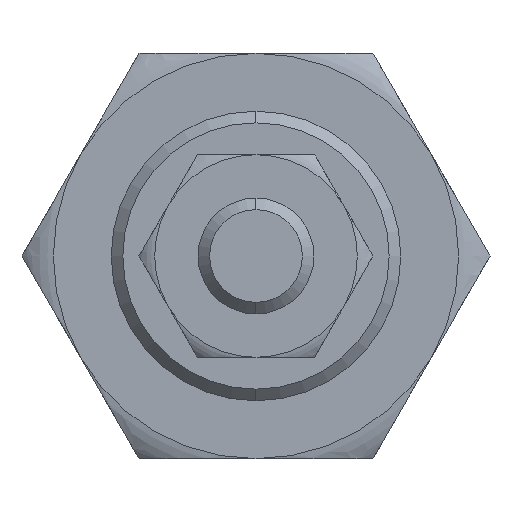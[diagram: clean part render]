
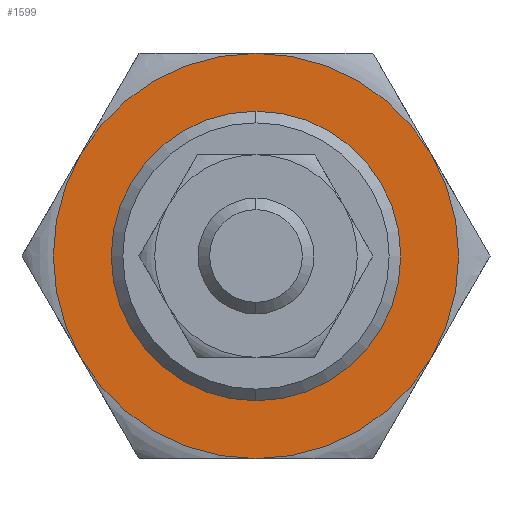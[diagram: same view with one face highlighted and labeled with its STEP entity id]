
A CAD part, left-side view. The second image highlights one B-rep face of the part: STEP entity #1599.
In plain terms, the highlighted planar face has unit normal (-1, 0, 0).
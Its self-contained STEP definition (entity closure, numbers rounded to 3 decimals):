
#3 = DIRECTION ( 'NONE',  ( 1., 0., 0. ) ) ;
#113 = ORIENTED_EDGE ( 'NONE', *, *, #191, .T. ) ;
#122 = DIRECTION ( 'NONE',  ( 1., 0., 0. ) ) ;
#191 = EDGE_CURVE ( 'NONE', #1757, #2485, #1456, .T. ) ;
#194 = ORIENTED_EDGE ( 'NONE', *, *, #1487, .F. ) ;
#199 = DIRECTION ( 'NONE',  ( 0., 0., -1. ) ) ;
#264 = EDGE_LOOP ( 'NONE', ( #2438, #194, #2385, #954, #2304, #759 ) ) ;
#274 = PLANE ( 'NONE',  #1167 ) ;
#322 = DIRECTION ( 'NONE',  ( 0., 0., 1. ) ) ;
#415 = VERTEX_POINT ( 'NONE', #457 ) ;
#431 = CARTESIAN_POINT ( 'NONE',  ( -1.5, 0., 0. ) ) ;
#432 = CARTESIAN_POINT ( 'NONE',  ( -1.5, 0., 0. ) ) ;
#448 = AXIS2_PLACEMENT_3D ( 'NONE', #1593, #463, #2006 ) ;
#457 = CARTESIAN_POINT ( 'NONE',  ( -1.5, -6.062, 3.5 ) ) ;
#463 = DIRECTION ( 'NONE',  ( 1., 0., 0. ) ) ;
#471 = FACE_OUTER_BOUND ( 'NONE', #264, .T. ) ;
#481 = EDGE_CURVE ( 'NONE', #1497, #942, #1769, .T. ) ;
#534 = DIRECTION ( 'NONE',  ( 0., 0., -1. ) ) ;
#554 = AXIS2_PLACEMENT_3D ( 'NONE', #2157, #2389, #322 ) ;
#646 = AXIS2_PLACEMENT_3D ( 'NONE', #431, #1458, #534 ) ;
#693 = EDGE_CURVE ( 'NONE', #970, #2982, #1082, .T. ) ;
#724 = EDGE_LOOP ( 'NONE', ( #2047, #113 ) ) ;
#759 = ORIENTED_EDGE ( 'NONE', *, *, #1460, .F. ) ;
#797 = DIRECTION ( 'NONE',  ( 0., 0., -1. ) ) ;
#823 = CIRCLE ( 'NONE', #646, 7. ) ;
#908 = CARTESIAN_POINT ( 'NONE',  ( -1.5, 0., 7. ) ) ;
#942 = VERTEX_POINT ( 'NONE', #2052 ) ;
#954 = ORIENTED_EDGE ( 'NONE', *, *, #1405, .F. ) ;
#970 = VERTEX_POINT ( 'NONE', #908 ) ;
#1065 = CARTESIAN_POINT ( 'NONE',  ( -1.5, 6.062, 3.5 ) ) ;
#1082 = CIRCLE ( 'NONE', #554, 7. ) ;
#1147 = AXIS2_PLACEMENT_3D ( 'NONE', #2869, #3, #797 ) ;
#1167 = AXIS2_PLACEMENT_3D ( 'NONE', #2985, #2516, #2937 ) ;
#1213 = AXIS2_PLACEMENT_3D ( 'NONE', #2773, #122, #2720 ) ;
#1241 = CARTESIAN_POINT ( 'NONE',  ( -1.5, 0., -7. ) ) ;
#1295 = AXIS2_PLACEMENT_3D ( 'NONE', #2711, #1958, #1795 ) ;
#1357 = DIRECTION ( 'NONE',  ( 0., 0., -1. ) ) ;
#1405 = EDGE_CURVE ( 'NONE', #970, #415, #3033, .T. ) ;
#1456 = CIRCLE ( 'NONE', #2834, 4.5 ) ;
#1458 = DIRECTION ( 'NONE',  ( 1., 0., 0. ) ) ;
#1460 = EDGE_CURVE ( 'NONE', #942, #2982, #1610, .T. ) ;
#1487 = EDGE_CURVE ( 'NONE', #2142, #1497, #1545, .T. ) ;
#1497 = VERTEX_POINT ( 'NONE', #1241 ) ;
#1545 = CIRCLE ( 'NONE', #448, 7. ) ;
#1551 = DIRECTION ( 'NONE',  ( 1., 0., 0. ) ) ;
#1593 = CARTESIAN_POINT ( 'NONE',  ( -1.5, 0., 0. ) ) ;
#1599 = ADVANCED_FACE ( 'NONE', ( #1970, #471 ), #274, .F. ) ;
#1610 = CIRCLE ( 'NONE', #1147, 7. ) ;
#1727 = CARTESIAN_POINT ( 'NONE',  ( -1.5, 0., 4.5 ) ) ;
#1757 = VERTEX_POINT ( 'NONE', #1727 ) ;
#1769 = CIRCLE ( 'NONE', #1213, 7. ) ;
#1795 = DIRECTION ( 'NONE',  ( 0., 0., -1. ) ) ;
#1958 = DIRECTION ( 'NONE',  ( 1., 0., 0. ) ) ;
#1970 = FACE_BOUND ( 'NONE', #724, .T. ) ;
#2006 = DIRECTION ( 'NONE',  ( 0., 0., -1. ) ) ;
#2047 = ORIENTED_EDGE ( 'NONE', *, *, #2365, .T. ) ;
#2052 = CARTESIAN_POINT ( 'NONE',  ( -1.5, 6.062, -3.5 ) ) ;
#2142 = VERTEX_POINT ( 'NONE', #2480 ) ;
#2157 = CARTESIAN_POINT ( 'NONE',  ( -1.5, 0., 0. ) ) ;
#2304 = ORIENTED_EDGE ( 'NONE', *, *, #693, .T. ) ;
#2365 = EDGE_CURVE ( 'NONE', #2485, #1757, #2386, .T. ) ;
#2385 = ORIENTED_EDGE ( 'NONE', *, *, #2630, .F. ) ;
#2386 = CIRCLE ( 'NONE', #1295, 4.5 ) ;
#2389 = DIRECTION ( 'NONE',  ( -1., 0., 0. ) ) ;
#2438 = ORIENTED_EDGE ( 'NONE', *, *, #481, .F. ) ;
#2461 = CARTESIAN_POINT ( 'NONE',  ( -1.5, 0., 0. ) ) ;
#2480 = CARTESIAN_POINT ( 'NONE',  ( -1.5, -6.062, -3.5 ) ) ;
#2485 = VERTEX_POINT ( 'NONE', #2617 ) ;
#2516 = DIRECTION ( 'NONE',  ( 1., 0., 0. ) ) ;
#2617 = CARTESIAN_POINT ( 'NONE',  ( -1.5, 0., -4.5 ) ) ;
#2630 = EDGE_CURVE ( 'NONE', #415, #2142, #823, .T. ) ;
#2711 = CARTESIAN_POINT ( 'NONE',  ( -1.5, 0., 0. ) ) ;
#2720 = DIRECTION ( 'NONE',  ( 0., 0., -1. ) ) ;
#2773 = CARTESIAN_POINT ( 'NONE',  ( -1.5, 0., 0. ) ) ;
#2806 = AXIS2_PLACEMENT_3D ( 'NONE', #2461, #1551, #199 ) ;
#2834 = AXIS2_PLACEMENT_3D ( 'NONE', #432, #2842, #1357 ) ;
#2842 = DIRECTION ( 'NONE',  ( 1., 0., 0. ) ) ;
#2869 = CARTESIAN_POINT ( 'NONE',  ( -1.5, 0., 0. ) ) ;
#2937 = DIRECTION ( 'NONE',  ( 0., 0., -1. ) ) ;
#2982 = VERTEX_POINT ( 'NONE', #1065 ) ;
#2985 = CARTESIAN_POINT ( 'NONE',  ( -1.5, 0., 0. ) ) ;
#3033 = CIRCLE ( 'NONE', #2806, 7. ) ;
